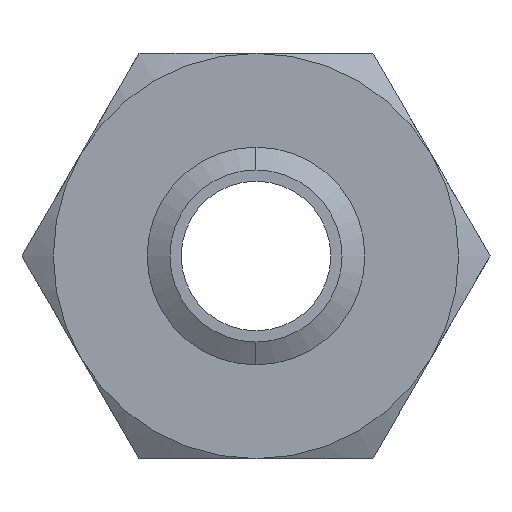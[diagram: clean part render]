
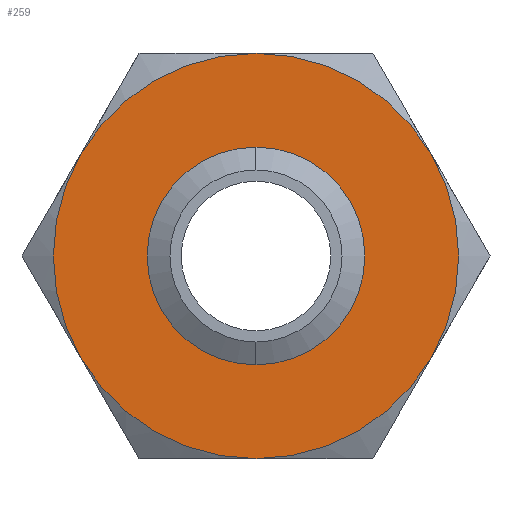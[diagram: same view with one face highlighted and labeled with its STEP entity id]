
A CAD part, front view. The second image highlights one B-rep face of the part: STEP entity #259.
In plain terms, the highlighted planar face has unit normal (0, -1, 0).
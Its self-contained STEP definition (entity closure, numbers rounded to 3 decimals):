
#195 = ORIENTED_EDGE ( 'NONE', *, *, #268, .F. ) ;
#196 = ORIENTED_EDGE ( 'NONE', *, *, #198, .F. ) ;
#197 = VERTEX_POINT ( 'NONE', #755 ) ;
#198 = EDGE_CURVE ( 'NONE', #199, #239, #754, .T. ) ;
#199 = VERTEX_POINT ( 'NONE', #749 ) ;
#209 = ORIENTED_EDGE ( 'NONE', *, *, #214, .F. ) ;
#214 = EDGE_CURVE ( 'NONE', #197, #199, #786, .T. ) ;
#239 = VERTEX_POINT ( 'NONE', #862 ) ;
#241 = VERTEX_POINT ( 'NONE', #861 ) ;
#248 = EDGE_CURVE ( 'NONE', #239, #241, #856, .T. ) ;
#250 = EDGE_LOOP ( 'NONE', ( #251, #196, #209, #195, #272, #307 ) ) ;
#251 = ORIENTED_EDGE ( 'NONE', *, *, #248, .F. ) ;
#259 = ADVANCED_FACE ( 'NONE', ( #889, #888 ), #887, .F. ) ;
#260 = VERTEX_POINT ( 'NONE', #882 ) ;
#265 = EDGE_CURVE ( 'NONE', #260, #270, #933, .T. ) ;
#268 = EDGE_CURVE ( 'NONE', #270, #197, #918, .T. ) ;
#270 = VERTEX_POINT ( 'NONE', #913 ) ;
#272 = ORIENTED_EDGE ( 'NONE', *, *, #265, .F. ) ;
#307 = ORIENTED_EDGE ( 'NONE', *, *, #1891, .F. ) ;
#749 = CARTESIAN_POINT ( 'NONE',  ( -28.146, 0., 16.25 ) ) ;
#750 = DIRECTION ( 'NONE',  ( 0., 0., 1. ) ) ;
#751 = DIRECTION ( 'NONE',  ( 0., 1., 0. ) ) ;
#752 = CARTESIAN_POINT ( 'NONE',  ( 0., 0., 0. ) ) ;
#753 = AXIS2_PLACEMENT_3D ( 'NONE', #752, #751, #750 ) ;
#754 = CIRCLE ( 'NONE', #753, 32.5 ) ;
#755 = CARTESIAN_POINT ( 'NONE',  ( -28.146, 0., -16.25 ) ) ;
#782 = DIRECTION ( 'NONE',  ( 0., 0., 1. ) ) ;
#783 = DIRECTION ( 'NONE',  ( 0., 1., 0. ) ) ;
#784 = CARTESIAN_POINT ( 'NONE',  ( 0., 0., 0. ) ) ;
#785 = AXIS2_PLACEMENT_3D ( 'NONE', #784, #783, #782 ) ;
#786 = CIRCLE ( 'NONE', #785, 32.5 ) ;
#852 = DIRECTION ( 'NONE',  ( 0., 0., 1. ) ) ;
#853 = DIRECTION ( 'NONE',  ( 0., 1., 0. ) ) ;
#854 = CARTESIAN_POINT ( 'NONE',  ( 0., 0., 0. ) ) ;
#855 = AXIS2_PLACEMENT_3D ( 'NONE', #854, #853, #852 ) ;
#856 = CIRCLE ( 'NONE', #855, 32.5 ) ;
#861 = CARTESIAN_POINT ( 'NONE',  ( 28.146, 0., 16.25 ) ) ;
#862 = CARTESIAN_POINT ( 'NONE',  ( 0., 0., 32.5 ) ) ;
#882 = CARTESIAN_POINT ( 'NONE',  ( 28.146, 0., -16.25 ) ) ;
#883 = DIRECTION ( 'NONE',  ( 0., 0., 1. ) ) ;
#884 = DIRECTION ( 'NONE',  ( 0., 1., 0. ) ) ;
#885 = CARTESIAN_POINT ( 'NONE',  ( 18.764, 0., -32.5 ) ) ;
#886 = AXIS2_PLACEMENT_3D ( 'NONE', #885, #884, #883 ) ;
#887 = PLANE ( 'NONE',  #886 ) ;
#888 = FACE_BOUND ( 'NONE', #1894, .T. ) ;
#889 = FACE_OUTER_BOUND ( 'NONE', #250, .T. ) ;
#913 = CARTESIAN_POINT ( 'NONE',  ( 0., 0., -32.5 ) ) ;
#914 = DIRECTION ( 'NONE',  ( 0., 0., 1. ) ) ;
#915 = DIRECTION ( 'NONE',  ( 0., 1., 0. ) ) ;
#916 = CARTESIAN_POINT ( 'NONE',  ( 0., 0., 0. ) ) ;
#917 = AXIS2_PLACEMENT_3D ( 'NONE', #916, #915, #914 ) ;
#918 = CIRCLE ( 'NONE', #917, 32.5 ) ;
#924 = DIRECTION ( 'NONE',  ( 0., 0., 1. ) ) ;
#925 = DIRECTION ( 'NONE',  ( 0., 1., 0. ) ) ;
#926 = CARTESIAN_POINT ( 'NONE',  ( 0., 0., 0. ) ) ;
#927 = AXIS2_PLACEMENT_3D ( 'NONE', #926, #925, #924 ) ;
#933 = CIRCLE ( 'NONE', #927, 32.5 ) ;
#1172 = DIRECTION ( 'NONE',  ( 0., -1., 0. ) ) ;
#1173 = CARTESIAN_POINT ( 'NONE',  ( 0., 0., 0. ) ) ;
#1174 = AXIS2_PLACEMENT_3D ( 'NONE', #1173, #1172, #1234 ) ;
#1175 = CIRCLE ( 'NONE', #1174, 13.802 ) ;
#1234 = DIRECTION ( 'NONE',  ( 0., 0., -1. ) ) ;
#1254 = DIRECTION ( 'NONE',  ( 0., 0., 1. ) ) ;
#1255 = DIRECTION ( 'NONE',  ( 0., 1., 0. ) ) ;
#1256 = CARTESIAN_POINT ( 'NONE',  ( 0., 0., 0. ) ) ;
#1257 = AXIS2_PLACEMENT_3D ( 'NONE', #1256, #1255, #1254 ) ;
#1258 = CIRCLE ( 'NONE', #1257, 32.5 ) ;
#1413 = CIRCLE ( 'NONE', #1472, 13.802 ) ;
#1414 = CARTESIAN_POINT ( 'NONE',  ( 0., 0., 13.802 ) ) ;
#1415 = CARTESIAN_POINT ( 'NONE',  ( 0., 0., -13.802 ) ) ;
#1459 = DIRECTION ( 'NONE',  ( 0., 0., -1. ) ) ;
#1460 = DIRECTION ( 'NONE',  ( 0., -1., 0. ) ) ;
#1471 = CARTESIAN_POINT ( 'NONE',  ( 0., 0., 0. ) ) ;
#1472 = AXIS2_PLACEMENT_3D ( 'NONE', #1471, #1460, #1459 ) ;
#1852 = EDGE_CURVE ( 'NONE', #1990, #1989, #1175, .T. ) ;
#1853 = ORIENTED_EDGE ( 'NONE', *, *, #1852, .F. ) ;
#1881 = ORIENTED_EDGE ( 'NONE', *, *, #1993, .F. ) ;
#1891 = EDGE_CURVE ( 'NONE', #241, #260, #1258, .T. ) ;
#1894 = EDGE_LOOP ( 'NONE', ( #1881, #1853 ) ) ;
#1989 = VERTEX_POINT ( 'NONE', #1415 ) ;
#1990 = VERTEX_POINT ( 'NONE', #1414 ) ;
#1993 = EDGE_CURVE ( 'NONE', #1989, #1990, #1413, .T. ) ;
